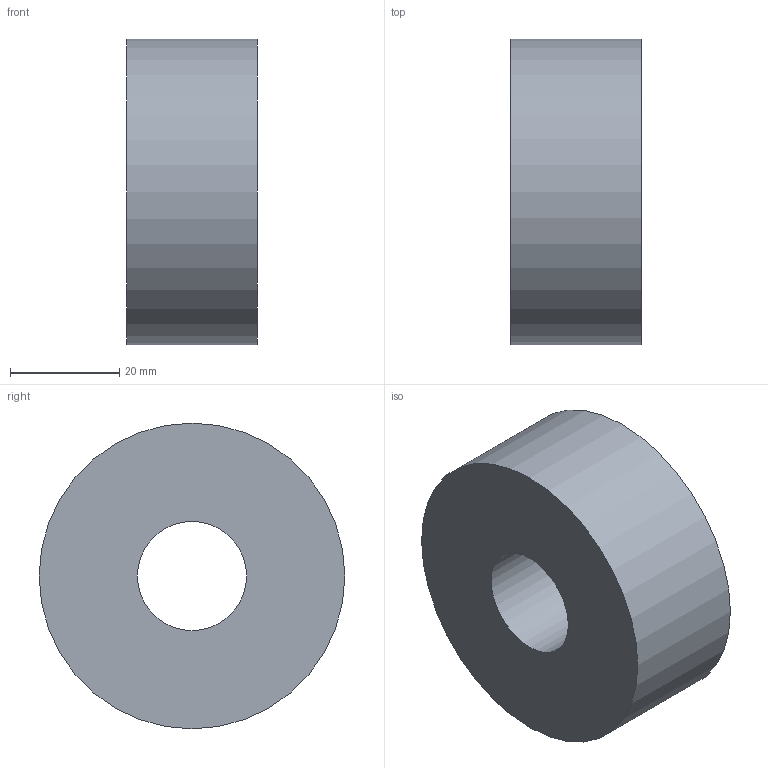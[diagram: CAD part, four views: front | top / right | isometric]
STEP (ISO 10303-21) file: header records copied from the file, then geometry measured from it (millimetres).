
FILE_DESCRIPTION(('Open CASCADE Model'),'2;1');
FILE_NAME('Open CASCADE Shape Model','2026-09-19T23:46:39',('Author'),( 'Open CASCADE'),'Open CASCADE STEP processor 7.9','Open CASCADE 7.9' ,'Unknown');
FILE_SCHEMA(('AUTOMOTIVE_DESIGN { 1 0 10303 214 1 1 1 1 }'));
Length unit declared in the file: millimetre
Products named in the file (1): Open CASCADE STEP translator 7.9 7
Bounding box: 24 x 56 x 56 mm (x, y, z)
Volume: 51572.4 mm3; surface area: 10028 mm2
Topology: 1 solids, 1 shells, 4 faces, 6 edges, 4 vertices
Faces by surface type: cylinder 2, plane 2
Full cylindrical faces by diameter (mm): 20 x1, 56 x1
Entity records: 186 total; most frequent: DIRECTION 32, CARTESIAN_POINT 27, ORIENTED_EDGE 12, PCURVE 12, DEFINITIONAL_REPRESENTATION 12, LINE 10, VECTOR 10, AXIS2_PLACEMENT_3D 9
